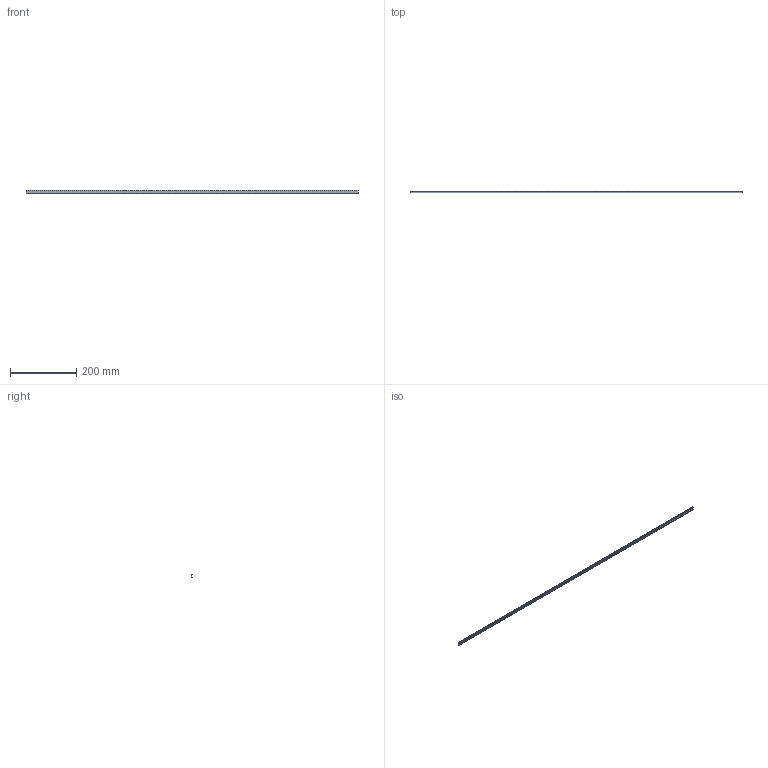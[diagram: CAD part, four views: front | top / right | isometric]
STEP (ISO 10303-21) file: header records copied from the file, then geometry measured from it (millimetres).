
FILE_DESCRIPTION (( 'STEP AP203' ), '1' );
FILE_NAME ('10032_ABDAL.STEP', '2018-05-18T07:54:13', ( '' ), ( '' ), 'SwSTEP 2.0', 'SolidWorks 2017', '' );
FILE_SCHEMA (( 'CONFIG_CONTROL_DESIGN' ));
Length unit declared in the file: millimetre
Products named in the file (1): 10032_ABDAL
Bounding box: 1000 x 4.29 x 9.1 mm (x, y, z)
Volume: 12652.3 mm3; surface area: 32443.5 mm2
Topology: 1 solids, 1 shells, 23 faces, 63 edges, 42 vertices
Faces by surface type: cylinder 13, plane 10
Entity records: 821 total; most frequent: DIRECTION 136, CARTESIAN_POINT 132, ORIENTED_EDGE 126, EDGE_CURVE 63, AXIS2_PLACEMENT_3D 50, VERTEX_POINT 42, VECTOR 36, LINE 36
